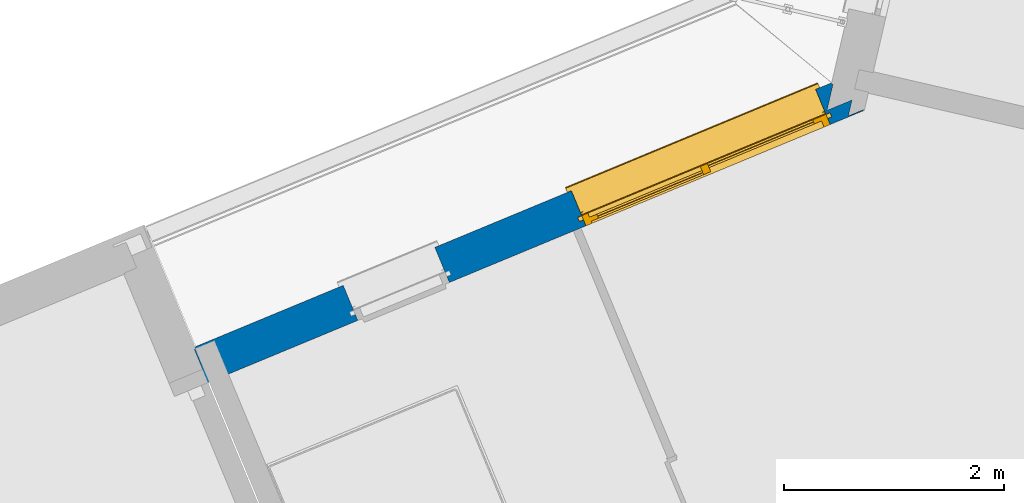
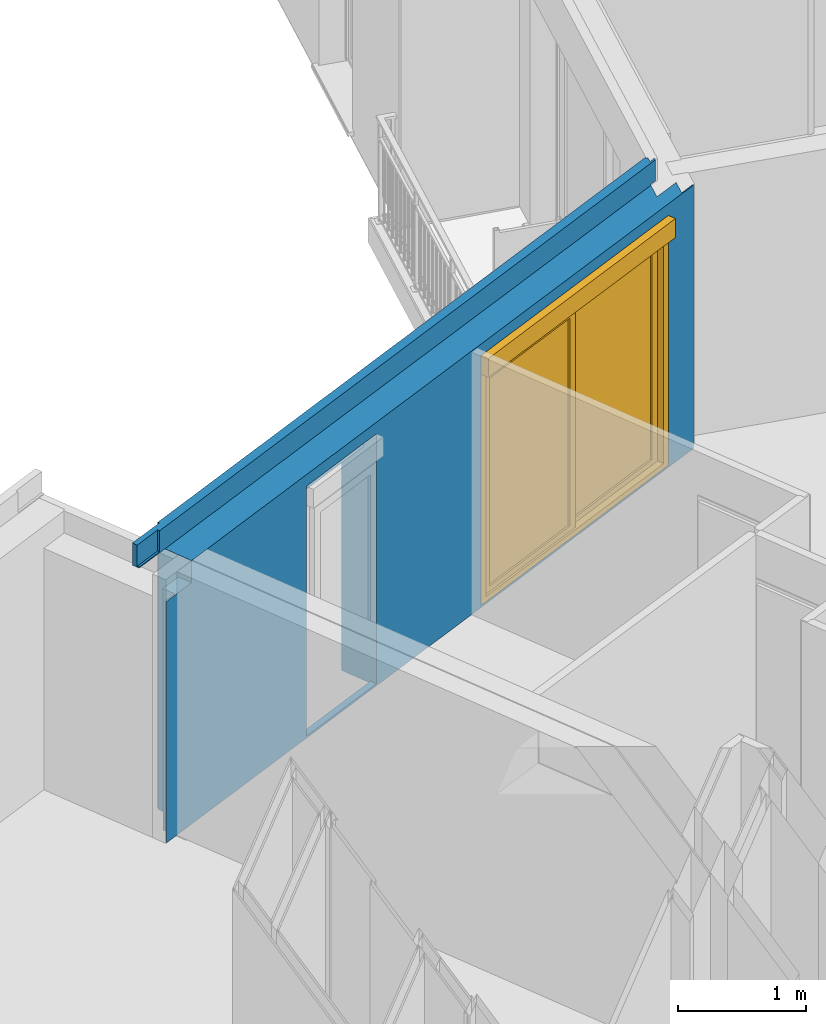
# One storey, part 13 of 90: 1 wall, 1 window, 2 openings.
"""IFC2X3 building model written with IfcOpenShell, lengths in metres."""

from ifc_helpers import new_model, entity, si_unit, converted_unit, derived_unit, money_unit, direction, frame, origin_with_axes, place, context, subcontext, project, spatial, open_shell, faceted_brep, surface_model, source, transform, mapped, material, material_list, type_object, element, fill, save


model = new_model("IFC2X3")

# Units and contexts
model_context = context("Model", 3, precision=1e-05, world=origin_with_axes(), true_north=direction((0.0, 1.0)))
body_context = subcontext(model_context, "Body", "Model", "MODEL_VIEW")
ifc_project = project(units=[si_unit("LENGTHUNIT", "METRE"), si_unit("AREAUNIT", "SQUARE_METRE"), si_unit("VOLUMEUNIT", "CUBIC_METRE"), converted_unit("PLANEANGLEUNIT", "DEGREE", entity("IfcPlaneAngleMeasure", 0.0174532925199), si_unit("PLANEANGLEUNIT", "RADIAN"), dimensions=[0, 0, 0, 0, 0, 0, 0]), si_unit("SOLIDANGLEUNIT", "STERADIAN"), money_unit("EUR"), converted_unit("TIMEUNIT", "Year", entity("IfcTimeMeasure", 31556926.0), si_unit("TIMEUNIT", "SECOND"), dimensions=[0, 0, 1, 0, 0, 0, 0]), si_unit("MASSUNIT", "GRAM", prefix="KILO"), si_unit("THERMODYNAMICTEMPERATUREUNIT", "DEGREE_CELSIUS"), si_unit("LUMINOUSINTENSITYUNIT", "LUMEN"), si_unit("ENERGYUNIT", "JOULE", prefix="MEGA"), derived_unit("THERMALCONDUCTANCEUNIT", [(si_unit("POWERUNIT", "WATT"), 1), (si_unit("LENGTHUNIT", "METRE"), -1), (si_unit("THERMODYNAMICTEMPERATUREUNIT", "KELVIN"), -1)]), derived_unit("SPECIFICHEATCAPACITYUNIT", [(si_unit("ENERGYUNIT", "JOULE"), 1), (si_unit("MASSUNIT", "GRAM", prefix="KILO"), -1), (si_unit("THERMODYNAMICTEMPERATUREUNIT", "KELVIN"), -1)]), derived_unit("MASSDENSITYUNIT", [(si_unit("MASSUNIT", "GRAM", prefix="KILO"), 1), (si_unit("VOLUMEUNIT", "CUBIC_METRE"), -1)])], contexts=[model_context])

# Site, building, storey
site_placement = place(None, origin_with_axes())
site = spatial("IfcSite", under=ifc_project, at=site_placement, Name="Site", CompositionType="ELEMENT")
building_placement = place(site_placement, origin_with_axes())
building = spatial("IfcBuilding", under=site, at=building_placement, Name="Bâtiment", CompositionType="ELEMENT")
storey_placement = place(building_placement, frame((0.0, 0.0, 2.72), z_axis=(0.0, 0.0, 1.0), x_axis=(1.0, 0.0, 0.0)))
storey = spatial("IfcBuildingStorey", under=building, at=storey_placement, Name="R+1", CompositionType="ELEMENT", Elevation=2.72)

# Wall, openings, window
ifc_material_1 = material(Name="Finition int - Plaque de plâtre")
ifc_material_2 = material(Name="Isolation - Polystyrène extrudé")
ifc_material_3 = material(Name="Bloc ELITHERM")
ifc_material_4 = material(Name="Isolation - Polystyrène expansé")
ifc_material_5 = material(Name="Mortier")
ifc_material_6 = material(Name="Béton cellulaire")
ifc_material_7 = material(Name="Finition ext - Crépis")
ifc_material_list = material_list([ifc_material_1, ifc_material_2, ifc_material_3, ifc_material_4, ifc_material_5, ifc_material_6, ifc_material_7])
wall_type = type_object("IfcWallType", Name="Mur ALKERN + planelle 21 345 x 2720", PredefinedType="USERDEFINED")
wall_placement = place(storey_placement, frame((-19.7780456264, -12.7581307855, 0.0), z_axis=(0.0, 0.0, 1.0), x_axis=(-0.923701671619, -0.383112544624, 0.0)))
wall = element("IfcWall", 1, at=wall_placement, inside=storey, type_object=wall_type, material=ifc_material_list, Name="Mue bloc ALKERN isolé", ObjectType="SOLIDWALL", context=body_context, shape_type="Brep", body=[
    faceted_brep([(-0.165315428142, 0.34499998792, 2.51), (6.27230078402, 0.344999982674, 2.51000000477), (6.27230078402, 0.344999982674, 2.3), (6.34030078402, 0.344999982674, 2.3), (6.59230079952, 0.344999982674, 2.3), (6.59230079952, 0.344999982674, 0.0), (-0.165315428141, 0.344999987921, 0.0), (2.55854389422, 0.344999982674, 2.22), (2.55854389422, 0.344999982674, 2.4), (0.158543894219, 0.344999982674, 2.4), (0.158543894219, 0.344999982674, 2.22), (0.158543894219, 0.344999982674, 0.02), (2.55854389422, 0.344999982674, 0.02), (4.80086941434, 0.344999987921, 2.22), (4.80086941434, 0.344999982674, 2.4), (3.90086941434, 0.344999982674, 2.4), (3.90086941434, 0.344999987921, 2.22), (3.90086941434, 0.344999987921, 0.02), (4.80086941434, 0.344999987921, 0.02), (-0.172454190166, 0.335000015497, 2.51), (6.27230078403, 0.335000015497, 2.51000000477), (6.27230078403, 0.335000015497, 2.3), (6.34030078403, 0.335000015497, 2.3), (6.59230079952, 0.335000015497, 2.3), (6.59230079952, 0.335000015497, 0.0), (-0.172454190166, 0.335000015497, 0.0), (2.55854389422, 0.335000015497, 2.22), (2.55854389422, 0.335000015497, 2.4), (0.158543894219, 0.335000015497, 2.4), (0.158543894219, 0.335000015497, 2.22), (0.158543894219, 0.335000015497, 0.02), (2.55854389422, 0.335000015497, 0.02), (4.80086941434, 0.335000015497, 2.22), (4.80086941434, 0.335000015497, 2.4), (3.90086941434, 0.335000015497, 2.4), (3.90086941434, 0.335000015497, 2.22), (3.90086941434, 0.335000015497, 0.02), (4.80086941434, 0.335000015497, 0.02)], [[[0, 1, 2, 3, 4, 5, 6], [7, 8, 9, 10, 11, 12], [13, 14, 15, 16, 17, 18]], [[1, 0, 19, 20]], [[2, 1, 20, 21]], [[22, 3, 2, 21]], [[4, 3, 22, 23]], [[24, 5, 4, 23]], [[24, 25, 6, 5]], [[6, 25, 19, 0]], [[26, 27, 8, 7]], [[27, 28, 9, 8]], [[28, 29, 10, 9]], [[30, 11, 10, 29]], [[31, 12, 11, 30]], [[12, 31, 26, 7]], [[14, 13, 32, 33]], [[15, 14, 33, 34]], [[16, 15, 34, 35]], [[16, 35, 36, 17]], [[17, 36, 37, 18]], [[32, 13, 18, 37]], [[25, 24, 23, 22, 21, 20, 19], [27, 26, 31, 30, 29, 28], [33, 32, 37, 36, 35, 34]]]),
    faceted_brep([(3.90086941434, 0.245, 0.02), (3.90086941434, 0.286, 0.02), (3.90086941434, 0.335000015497, 0.02), (3.90086941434, 0.335000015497, 2.22), (3.90086941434, 0.245, 2.22), (3.90086941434, 0.215000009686, 0.02), (3.90086941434, 0.215000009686, 0.0), (3.90086941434, 0.286, 0.0), (4.80086941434, 0.286, 0.02), (4.80086941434, 0.335000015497, 0.02), (6.27230078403, 0.335000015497, 2.3), (6.34030078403, 0.335000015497, 2.3), (6.47230079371, 0.335000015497, 2.3), (6.47230079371, 0.335000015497, 0.0), (-0.0250141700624, 0.335000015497, 0.0), (-0.0250141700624, 0.335000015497, 2.51), (6.27230078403, 0.335000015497, 2.51000000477), (0.158543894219, 0.335000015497, 2.22), (0.158543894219, 0.335000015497, 0.02), (2.55854389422, 0.335000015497, 0.02), (2.55854389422, 0.335000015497, 2.22), (2.55854389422, 0.335000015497, 2.4), (0.158543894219, 0.335000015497, 2.4), (4.80086941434, 0.335000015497, 2.22), (4.80086941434, 0.335000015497, 2.4), (3.90086941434, 0.335000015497, 2.4), (3.90086941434, 0.215, 2.4), (3.90086941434, 0.215, 2.22), (4.80086941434, 0.215, 2.4), (4.80086941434, 0.215, 2.22), (4.80086941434, 0.215000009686, 0.02), (4.80086941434, 0.215000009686, 0.0), (6.47230079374, 0.215000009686, 0.0), (6.47230079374, 0.215000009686, 2.3), (6.34030078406, 0.215000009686, 2.3), (6.27230078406, 0.215000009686, 2.3), (6.27230078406, 0.215000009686, 2.51000000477), (-0.110679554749, 0.215000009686, 2.51), (-0.110679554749, 0.215000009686, 0.0), (0.158543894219, 0.215000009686, 0.0), (0.158543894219, 0.215000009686, 0.02), (0.158543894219, 0.215, 2.22), (0.158543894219, 0.215, 2.4), (2.55854389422, 0.215, 2.4), (2.55854389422, 0.215, 2.22), (2.55854389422, 0.215000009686, 0.02), (2.55854389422, 0.215000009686, 0.0), (2.55854389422, 0.286, 0.0), (0.158543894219, 0.286, 0.0), (4.80086941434, 0.286, 0.0), (4.80086941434, 0.245, 0.02), (4.80086941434, 0.245, 2.22), (0.158543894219, 0.245, 2.22), (0.158543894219, 0.245, 0.02), (0.158543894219, 0.286, 0.02), (2.55854389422, 0.286, 0.02), (2.55854389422, 0.245, 0.02), (2.55854389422, 0.245, 2.22)], [[[0, 1, 2, 3, 4]], [[1, 0, 5, 6, 7]], [[1, 8, 9, 2]], [[10, 11, 12, 13, 14, 15, 16], [17, 18, 19, 20, 21, 22], [3, 2, 9, 23, 24, 25]], [[26, 27, 4, 3, 25]], [[5, 0, 4, 27]], [[6, 5, 27, 26, 28, 29, 30, 31, 32, 33, 34, 35, 36, 37, 38, 39, 40, 41, 42, 43, 44, 45, 46]], [[7, 6, 46, 47, 48, 39, 38, 14, 13, 32, 31, 49]], [[8, 1, 7, 49]], [[8, 50, 51, 23, 9]], [[34, 11, 10, 35]], [[12, 11, 34, 33]], [[32, 13, 12, 33]], [[14, 38, 37, 15]], [[16, 15, 37, 36]], [[10, 16, 36, 35]], [[17, 52, 53, 54, 18]], [[54, 55, 19, 18]], [[20, 19, 55, 56, 57]], [[21, 20, 57, 44, 43]], [[21, 43, 42, 22]], [[17, 22, 42, 41, 52]], [[51, 29, 28, 24, 23]], [[24, 28, 26, 25]], [[50, 30, 29, 51]], [[50, 8, 49, 31, 30]], [[39, 48, 54, 53, 40]], [[40, 53, 52, 41]], [[56, 45, 44, 57]], [[46, 45, 56, 55, 47]], [[55, 54, 48, 47]]]),
    faceted_brep([(3.90086941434, 0.214999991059, 0.02), (3.90086941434, 0.214999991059, 0.0), (2.55854389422, 0.214999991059, 0.0), (2.55854389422, 0.214999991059, 0.02), (2.55854389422, 0.214999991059, 2.22), (0.158543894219, 0.214999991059, 2.22), (0.158543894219, 0.214999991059, 0.02), (0.158543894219, 0.214999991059, 0.0), (0.135053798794, 0.214999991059, 0.0), (0.135053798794, 0.214999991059, 2.50999999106), (6.27230078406, 0.214999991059, 2.51000000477), (6.27230078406, 0.214999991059, 0.0), (4.80086941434, 0.214999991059, 0.0), (4.80086941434, 0.214999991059, 0.02), (4.80086941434, 0.214999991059, 2.22), (3.90086941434, 0.214999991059, 2.22), (3.90086941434, 0.015, 0.02), (3.90086941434, 0.015, 0.0), (3.90086941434, 0.015, 2.22), (2.55854389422, 0.015, 0.0), (2.55854389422, 0.015, 0.02), (2.55854389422, 0.015, 2.22), (0.158543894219, 0.015, 2.22), (0.158543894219, 0.015, 0.02), (0.158543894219, 0.015, 0.0), (-0.00772182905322, 0.015, 0.0), (-0.00772182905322, 0.015, 2.50999999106), (0.0408218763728, 0.0829999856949, 2.50999999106), (6.27230078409, 0.0829999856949, 2.51000000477), (6.27230078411, 0.015, 0.0), (6.27230078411, 0.015, 2.51000000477), (4.80086941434, 0.015, 0.0), (4.80086941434, 0.015, 0.02), (4.80086941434, 0.015, 2.22)], [[[0, 1, 2, 3, 4, 5, 6, 7, 8, 9, 10, 11, 12, 13, 14, 15]], [[16, 17, 1, 0, 15, 18]], [[1, 17, 19, 2]], [[3, 2, 19, 20, 21, 4]], [[22, 5, 4, 21]], [[23, 24, 7, 6, 5, 22]], [[25, 8, 7, 24]], [[9, 8, 25, 26, 27]], [[9, 27, 28, 10]], [[29, 11, 10, 28, 30]], [[31, 12, 11, 29]], [[13, 12, 31, 32, 33, 14]], [[14, 33, 18, 15]], [[17, 16, 18, 33, 32, 31, 29, 30, 26, 25, 24, 23, 22, 21, 20, 19]], [[27, 26, 30, 28]]]),
    faceted_brep([(6.34029502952, 0.0630000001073, 2.72), (6.34029493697, 0.083000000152, 2.72), (-0.0181541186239, 0.083000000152, 2.72), (-0.0324316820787, 0.0630000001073, 2.72), (6.34029493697, 0.083000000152, 2.51999999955), (6.34029502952, 0.0630000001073, 2.51999999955), (-0.0181541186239, 0.083000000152, 2.51999999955), (-0.0324316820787, 0.0630000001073, 2.51999999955)], [[[0, 1, 2, 3]], [[4, 1, 0, 5]], [[1, 4, 6, 2]], [[3, 2, 6, 7]], [[5, 0, 3, 7]], [[4, 5, 7, 6]]]),
    faceted_brep([(0.0408218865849, 0.083, 2.52), (-0.00772182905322, 0.015, 2.52), (6.60230075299, 0.015, 2.52), (6.60230075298, 0.083, 2.52), (-0.00772182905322, 0.015, 2.51), (0.0408218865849, 0.083, 2.51), (6.60230075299, 0.015, 2.51), (6.60230075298, 0.083, 2.51)], [[[0, 1, 2, 3]], [[4, 1, 0, 5]], [[1, 4, 6, 2]], [[6, 7, 3, 2]], [[5, 0, 3, 7]], [[4, 5, 7, 6]]]),
    faceted_brep([(0.0265443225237, 0.0629999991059, 2.72), (-0.00772182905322, 0.015, 2.72), (6.60230075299, 0.015, 2.71999999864), (6.60230075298, 0.0629999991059, 2.71999999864), (-0.00772182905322, 0.015, 2.51999999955), (0.0265443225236, 0.0629999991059, 2.51999999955), (6.60230075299, 0.015, 2.51999999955), (6.60230075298, 0.0629999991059, 2.51999999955)], [[[0, 1, 2, 3]], [[4, 1, 0, 5]], [[1, 4, 6, 2]], [[6, 7, 3, 2]], [[5, 0, 3, 7]], [[4, 5, 7, 6]]]),
    faceted_brep([(3.90086941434, 0.0149999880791, 0.02), (3.90086941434, 0.0149999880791, 0.0), (2.55854389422, 0.0149999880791, 0.0), (2.55854389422, 0.0149999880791, 0.02), (2.55854389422, 0.0149999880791, 2.22), (0.158543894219, 0.0149999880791, 2.22), (0.158543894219, 0.0149999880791, 0.02), (0.158543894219, 0.0149999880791, 0.0), (0.0107081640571, 0.0149999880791, 0.0), (0.0107081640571, 0.0149999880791, 2.72), (6.25730078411, 0.0149999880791, 2.72), (6.25730078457, 0.0149999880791, 0.0), (4.80086941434, 0.0149999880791, 0.0), (4.80086941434, 0.0149999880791, 0.02), (4.80086941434, 0.0149999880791, 2.22), (3.90086941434, 0.0149999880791, 2.22), (3.90086941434, 0.0, 0.02), (3.90086941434, 0.0, 0.0), (3.90086941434, 0.0, 2.22), (2.55854389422, 0.0, 0.0), (2.55854389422, 0.0, 0.02), (2.55854389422, 0.0, 2.22), (0.158543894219, 0.0, 2.22), (0.158543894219, 0.0, 0.02), (0.158543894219, 0.0, 0.0), (0.0, 0.0, 0.0), (0.0, 0.0, 2.72), (6.25730078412, 0.0, 2.72), (6.25730078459, 0.0, 0.0), (4.80086941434, 0.0, 0.0), (4.80086941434, 0.0, 0.02), (4.80086941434, 0.0, 2.22)], [[[0, 1, 2, 3, 4, 5, 6, 7, 8, 9, 10, 11, 12, 13, 14, 15]], [[16, 17, 1, 0, 15, 18]], [[1, 17, 19, 2]], [[3, 2, 19, 20, 21, 4]], [[22, 5, 4, 21]], [[23, 24, 7, 6, 5, 22]], [[25, 8, 7, 24]], [[25, 26, 9, 8]], [[10, 9, 26, 27]], [[11, 10, 27, 28]], [[29, 12, 11, 28]], [[13, 12, 29, 30, 31, 14]], [[14, 31, 18, 15]], [[17, 16, 18, 31, 30, 29, 28, 27, 26, 25, 24, 23, 22, 21, 20, 19]]]),
])
opening_1_placement = place(wall_placement, frame((1.35854389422, 0.0, 0.02), z_axis=(0.0, 0.0, 1.0), x_axis=(1.0, 0.0, 0.0)))
opening_1 = element("IfcOpeningElement", 2, at=opening_1_placement, cuts=wall, Name="MEN 50", context=body_context, shape_type="Brep", body=[
    faceted_brep([(-1.2, 0.83499998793, 0.0), (1.2, 0.83499998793, 0.0), (1.2, 0.245, 0.0), (-1.2, 0.245, 0.0), (-1.2, 0.83499998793, 2.2), (1.2, 0.83499998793, 2.2), (1.2, 0.245, 2.2), (-1.2, 0.245, 2.2)], [[[0, 1, 2, 3]], [[0, 4, 5, 1]], [[1, 5, 6, 2]], [[3, 2, 6, 7]], [[4, 0, 3, 7]], [[5, 4, 7, 6]]]),
    faceted_brep([(-1.2, -0.34499998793, 0.0), (-1.2, -0.34499998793, 2.2), (-1.2, 0.245, 2.2), (-1.2, 0.245, 0.0), (1.2, -0.34499998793, 0.0), (1.2, -0.34499998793, 2.2), (1.2, 0.245, 2.2), (1.2, 0.245, 0.0)], [[[0, 1, 2, 3]], [[0, 4, 5, 1]], [[1, 5, 6, 2]], [[3, 2, 6, 7]], [[4, 0, 3, 7]], [[5, 4, 7, 6]]]),
    faceted_brep([(-1.2, -0.34499998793, 0.0), (-1.2, -0.34499998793, 2.2), (-1.2, 0.245, 2.2), (-1.2, 0.245, 0.0), (1.2, -0.34499998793, 0.0), (1.2, -0.34499998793, 2.2), (1.2, 0.245, 2.2), (1.2, 0.245, 0.0)], [[[0, 1, 2, 3]], [[0, 4, 5, 1]], [[1, 5, 6, 2]], [[3, 2, 6, 7]], [[4, 0, 3, 7]], [[5, 4, 7, 6]]]),
    faceted_brep([(-1.2, 0.80499998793, 2.2), (1.2, 0.80499998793, 2.2), (1.2, 0.215, 2.2), (-1.2, 0.215, 2.2), (-1.2, 0.80499998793, 2.38), (1.2, 0.80499998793, 2.38), (1.2, 0.215, 2.38), (-1.2, 0.215, 2.38)], [[[0, 1, 2, 3]], [[0, 4, 5, 1]], [[1, 5, 6, 2]], [[3, 2, 6, 7]], [[4, 0, 3, 7]], [[5, 4, 7, 6]]]),
    faceted_brep([(-1.2, -0.30399998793, 0.0), (1.2, -0.30399998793, 0.0), (1.2, 0.286, 0.0), (-1.2, 0.286, 0.0), (-1.2, -0.30399998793, -0.06), (1.2, -0.30399998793, -0.06), (1.2, 0.286, -0.06), (-1.2, 0.286, -0.06)], [[[0, 1, 2, 3]], [[0, 4, 5, 1]], [[1, 5, 6, 2]], [[3, 2, 6, 7]], [[4, 0, 3, 7]], [[5, 4, 7, 6]]]),
])
opening_2_placement = place(wall_placement, frame((4.35086941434, 0.0, 0.02), z_axis=(0.0, 0.0, 1.0), x_axis=(1.0, 0.0, 0.0)))
element("IfcOpeningElement", 3, at=opening_2_placement, cuts=wall, Name="MEN 51", context=body_context, shape_type="Brep", body=[
    faceted_brep([(0.45, 0.245, 0.0), (-0.45, 0.245, 0.0), (-0.45, 0.83499998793, 0.0), (0.45, 0.83499998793, 0.0), (0.45, 0.245, 2.2), (-0.45, 0.245, 2.2), (-0.45, 0.83499998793, 2.2), (0.45, 0.83499998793, 2.2)], [[[0, 1, 2, 3]], [[0, 4, 5, 1]], [[1, 5, 6, 2]], [[3, 2, 6, 7]], [[4, 0, 3, 7]], [[5, 4, 7, 6]]]),
    faceted_brep([(0.45, 0.245, 0.0), (0.45, 0.245, 2.2), (0.45, -0.34499998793, 2.2), (0.45, -0.34499998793, 0.0), (-0.45, 0.245, 0.0), (-0.45, 0.245, 2.2), (-0.45, -0.34499998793, 2.2), (-0.45, -0.34499998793, 0.0)], [[[0, 1, 2, 3]], [[0, 4, 5, 1]], [[1, 5, 6, 2]], [[3, 2, 6, 7]], [[4, 0, 3, 7]], [[5, 4, 7, 6]]]),
    faceted_brep([(0.45, 0.245, 0.0), (0.45, 0.245, 2.2), (0.45, -0.34499998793, 2.2), (0.45, -0.34499998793, 0.0), (-0.45, 0.245, 0.0), (-0.45, 0.245, 2.2), (-0.45, -0.34499998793, 2.2), (-0.45, -0.34499998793, 0.0)], [[[0, 1, 2, 3]], [[0, 4, 5, 1]], [[1, 5, 6, 2]], [[3, 2, 6, 7]], [[4, 0, 3, 7]], [[5, 4, 7, 6]]]),
    faceted_brep([(0.45, 0.215, 2.2), (-0.45, 0.215, 2.2), (-0.45, 0.80499998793, 2.2), (0.45, 0.80499998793, 2.2), (0.45, 0.215, 2.38), (-0.45, 0.215, 2.38), (-0.45, 0.80499998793, 2.38), (0.45, 0.80499998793, 2.38)], [[[0, 1, 2, 3]], [[0, 4, 5, 1]], [[1, 5, 6, 2]], [[3, 2, 6, 7]], [[4, 0, 3, 7]], [[5, 4, 7, 6]]]),
    faceted_brep([(0.45, 0.286, 0.0), (-0.45, 0.286, 0.0), (-0.45, -0.30399998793, 0.0), (0.45, -0.30399998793, 0.0), (0.45, 0.286, -0.06), (-0.45, 0.286, -0.06), (-0.45, -0.30399998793, -0.06), (0.45, -0.30399998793, -0.06)], [[[0, 1, 2, 3]], [[0, 4, 5, 1]], [[1, 5, 6, 2]], [[3, 2, 6, 7]], [[4, 0, 3, 7]], [[5, 4, 7, 6]]]),
])
window_style = type_object("IfcWindowStyle", Name="Baie générique 2017 v2", ConstructionType="NOTDEFINED", OperationType="NOTDEFINED", ParameterTakesPrecedence=False, Sizeable=False)
shared_shape = source(origin_with_axes(), body_context, "Body", "SurfaceModel", [
    faceted_brep([(-1.2, 0.1, 0.0), (1.2, 0.1, 0.0), (1.2, 0.0, 0.0), (-1.2, 0.0, 0.0), (-1.2, 0.1, 2.2), (1.2, 0.1, 2.2), (-1.14, 0.1, 0.05), (1.14, 0.1, 0.05), (1.14, 0.1, 2.15), (-1.14, 0.1, 2.15), (1.2, 0.0, 2.2), (-1.2, 0.0, 2.2), (-1.14, 0.0, 0.05), (-1.14, 0.0, 2.15), (1.14, 0.0, 2.15), (1.14, 0.0, 0.05)], [[[0, 1, 2, 3]], [[0, 4, 5, 1], [6, 7, 8, 9]], [[1, 5, 10, 2]], [[3, 2, 10, 11], [12, 13, 14, 15]], [[4, 0, 3, 11]], [[5, 4, 11, 10]], [[7, 6, 12, 15]], [[8, 7, 15, 14]], [[9, 8, 14, 13]], [[6, 9, 13, 12]]]),
    faceted_brep([(-1.14, 0.04, 0.05), (-1.14, 0.04, 2.15), (0.035, 0.04, 2.15), (0.035, 0.04, 0.05), (-0.035, 0.04, 2.08), (-1.07, 0.04, 2.08), (-1.07, 0.04, 0.1), (-0.035, 0.04, 0.1), (-1.14, 0.0, 2.15), (-1.14, 0.02, 2.15), (-1.14, 0.02, 0.05), (-1.14, 0.0, 0.05), (0.035, 0.0, 2.15), (0.035, 0.02, 2.15), (0.035, 0.0, 0.05), (0.035, 0.02, 0.05), (-0.035, 0.0, 2.08), (-1.07, 0.0, 2.08), (-1.07, 0.0, 0.1), (-0.035, 0.0, 0.1)], [[[0, 1, 2, 3], [4, 5, 6, 7]], [[8, 9, 1, 0, 10, 11]], [[12, 13, 2, 1, 9, 8]], [[13, 12, 14, 15, 3, 2]], [[15, 14, 11, 10, 0, 3]], [[5, 4, 16, 17]], [[18, 6, 5, 17]], [[19, 7, 6, 18]], [[4, 7, 19, 16]], [[12, 8, 11, 14], [19, 18, 17, 16]]]),
    surface_model("IfcShellBasedSurfaceModel", [(-1.14, 0.04, 0.05), (-1.14, 0.04, 2.15), (0.035, 0.04, 2.15), (0.035, 0.04, 0.05), (-1.07, 0.04, 0.1), (-0.035, 0.04, 0.1), (-0.035, 0.04, 2.08), (-1.07, 0.04, 2.08)], [open_shell([[[0, 1, 2, 3], [4, 5, 6, 7]]])]),
    surface_model("IfcShellBasedSurfaceModel", [(-1.14, 0.0, 0.05), (-1.14, 0.0, 2.15), (0.035, 0.0, 2.15), (0.035, 0.0, 0.05), (-1.07, 0.0, 0.1), (-0.035, 0.0, 0.1), (-0.035, 0.0, 2.08), (-1.07, 0.0, 2.08)], [open_shell([[[0, 1, 2, 3], [4, 5, 6, 7]]])]),
    faceted_brep([(-1.07, 0.0225, 0.1), (-0.035, 0.0225, 0.1), (-0.035, 0.0175, 0.1), (-1.07, 0.0175, 0.1), (-1.07, 0.0225, 2.08), (-0.035, 0.0225, 2.08), (-0.035, 0.0175, 2.08), (-1.07, 0.0175, 2.08)], [[[0, 1, 2, 3]], [[0, 4, 5, 1]], [[1, 5, 6, 2]], [[3, 2, 6, 7]], [[4, 0, 3, 7]], [[5, 4, 7, 6]]]),
    faceted_brep([(-0.035, 0.08, 0.05), (-0.035, 0.08, 2.15), (1.14, 0.08, 2.15), (1.14, 0.08, 0.05), (1.07, 0.08, 2.08), (0.035, 0.08, 2.08), (0.035, 0.08, 0.1), (1.07, 0.08, 0.1), (-0.035, 0.04, 2.15), (-0.035, 0.06, 2.15), (-0.035, 0.06, 0.05), (-0.035, 0.04, 0.05), (1.14, 0.04, 2.15), (1.14, 0.06, 2.15), (1.14, 0.04, 0.05), (1.14, 0.06, 0.05), (1.07, 0.04, 2.08), (0.035, 0.04, 2.08), (0.035, 0.04, 0.1), (1.07, 0.04, 0.1)], [[[0, 1, 2, 3], [4, 5, 6, 7]], [[8, 9, 1, 0, 10, 11]], [[12, 13, 2, 1, 9, 8]], [[13, 12, 14, 15, 3, 2]], [[15, 14, 11, 10, 0, 3]], [[5, 4, 16, 17]], [[18, 6, 5, 17]], [[19, 7, 6, 18]], [[4, 7, 19, 16]], [[12, 8, 11, 14], [19, 18, 17, 16]]]),
    surface_model("IfcShellBasedSurfaceModel", [(-0.035, 0.08, 0.05), (-0.035, 0.08, 2.15), (1.14, 0.08, 2.15), (1.14, 0.08, 0.05), (0.035, 0.08, 0.1), (1.07, 0.08, 0.1), (1.07, 0.08, 2.08), (0.035, 0.08, 2.08)], [open_shell([[[0, 1, 2, 3], [4, 5, 6, 7]]])]),
    surface_model("IfcShellBasedSurfaceModel", [(-0.035, 0.04, 0.05), (-0.035, 0.04, 2.15), (1.14, 0.04, 2.15), (1.14, 0.04, 0.05), (0.035, 0.04, 0.1), (1.07, 0.04, 0.1), (1.07, 0.04, 2.08), (0.035, 0.04, 2.08)], [open_shell([[[0, 1, 2, 3], [4, 5, 6, 7]]])]),
    faceted_brep([(0.035, 0.0625, 0.1), (1.07, 0.0625, 0.1), (1.07, 0.0575, 0.1), (0.035, 0.0575, 0.1), (0.035, 0.0625, 2.08), (1.07, 0.0625, 2.08), (1.07, 0.0575, 2.08), (0.035, 0.0575, 2.08)], [[[0, 1, 2, 3]], [[0, 4, 5, 1]], [[1, 5, 6, 2]], [[3, 2, 6, 7]], [[4, 0, 3, 7]], [[5, 4, 7, 6]]]),
    faceted_brep([(-1.2, -0.03, 0.0), (-1.175, -0.03, 0.0), (-1.175, -0.03, 2.2), (-1.2, -0.03, 2.2), (-1.2, -0.002, 0.0), (-1.175, -0.002, 0.0), (-1.175, -0.004, 0.0), (-1.198, -0.004, 0.0), (-1.198, -0.028, 0.0), (-1.175, -0.028, 0.0), (-1.175, -0.028, 2.2), (-1.198, -0.028, 2.2), (-1.198, -0.004, 2.2), (-1.175, -0.004, 2.2), (-1.175, -0.002, 2.2), (-1.2, -0.002, 2.2)], [[[0, 1, 2, 3]], [[0, 4, 5, 6, 7, 8, 9, 1]], [[1, 9, 10, 2]], [[3, 2, 10, 11, 12, 13, 14, 15]], [[4, 0, 3, 15]], [[5, 4, 15, 14]], [[6, 5, 14, 13]], [[7, 6, 13, 12]], [[8, 7, 12, 11]], [[9, 8, 11, 10]]]),
    faceted_brep([(1.2, -0.03, 0.0), (1.2, -0.03, 2.2), (1.175, -0.03, 2.2), (1.175, -0.03, 0.0), (1.2, -0.002, 0.0), (1.2, -0.002, 2.2), (1.175, -0.002, 2.2), (1.175, -0.004, 2.2), (1.198, -0.004, 2.2), (1.198, -0.028, 2.2), (1.175, -0.028, 2.2), (1.175, -0.028, 0.0), (1.198, -0.028, 0.0), (1.198, -0.004, 0.0), (1.175, -0.004, 0.0), (1.175, -0.002, 0.0)], [[[0, 1, 2, 3]], [[4, 5, 1, 0]], [[1, 5, 6, 7, 8, 9, 10, 2]], [[3, 2, 10, 11]], [[0, 3, 11, 12, 13, 14, 15, 4]], [[15, 6, 5, 4]], [[14, 7, 6, 15]], [[13, 8, 7, 14]], [[12, 9, 8, 13]], [[11, 10, 9, 12]]]),
    faceted_brep([(1.198, -0.028, 2.2), (-1.198, -0.028, 2.2), (-1.198, -0.028, 2.378), (1.198, -0.028, 2.378), (1.198, -0.03, 2.2), (-1.198, -0.03, 2.2), (-1.198, -0.03, 2.38), (-1.198, 0.17, 2.38), (-1.198, 0.17, 2.2), (-1.198, 0.168, 2.2), (-1.198, 0.168, 2.378), (1.198, 0.168, 2.378), (1.198, 0.168, 2.2), (1.198, 0.17, 2.2), (1.198, 0.17, 2.38), (1.198, -0.03, 2.38)], [[[0, 1, 2, 3]], [[4, 5, 1, 0]], [[1, 5, 6, 7, 8, 9, 10, 2]], [[3, 2, 10, 11]], [[0, 3, 11, 12, 13, 14, 15, 4]], [[15, 6, 5, 4]], [[14, 7, 6, 15]], [[13, 8, 7, 14]], [[12, 9, 8, 13]], [[11, 10, 9, 12]]]),
    faceted_brep([(1.198, 0.0724697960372, 2.27436337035), (1.198, 0.08, 2.29), (1.198, 0.0724697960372, 2.30563662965), (1.198, 0.0555495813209, 2.30949855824), (1.198, 0.041980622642, 2.29867767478), (1.198, 0.041980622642, 2.28132232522), (1.198, 0.0555495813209, 2.27050144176), (-1.198, 0.0724697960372, 2.27436337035), (-1.198, 0.08, 2.29), (-1.198, 0.0724697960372, 2.30563662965), (-1.198, 0.0555495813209, 2.30949855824), (-1.198, 0.041980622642, 2.29867767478), (-1.198, 0.041980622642, 2.28132232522), (-1.198, 0.0555495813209, 2.27050144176)], [[[0, 1, 2, 3, 4, 5, 6]], [[0, 7, 8, 1]], [[1, 8, 9, 2]], [[2, 9, 10, 3]], [[3, 10, 11, 4]], [[4, 11, 12, 5]], [[5, 12, 13, 6]], [[6, 13, 7, 0]], [[7, 13, 12, 11, 10, 9, 8]]]),
    faceted_brep([(1.188, 0.130275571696, 2.25615706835), (1.188, 0.138, 2.29), (1.188, 0.130275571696, 2.32384293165), (1.188, 0.108632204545, 2.35098285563), (1.188, 0.0773566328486, 2.36604437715), (1.188, 0.0426433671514, 2.36604437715), (1.188, 0.011367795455, 2.35098285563), (1.188, -0.0102755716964, 2.32384293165), (1.188, -0.018, 2.29), (1.188, -0.0102755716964, 2.25615706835), (1.188, 0.011367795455, 2.22901714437), (1.188, 0.0426433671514, 2.21395562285), (1.188, 0.0773566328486, 2.21395562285), (1.188, 0.108632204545, 2.22901714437), (-1.188, 0.130275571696, 2.25615706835), (-1.188, 0.138, 2.29), (-1.188, 0.130275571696, 2.32384293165), (-1.188, 0.108632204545, 2.35098285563), (-1.188, 0.0773566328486, 2.36604437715), (-1.188, 0.0426433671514, 2.36604437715), (-1.188, 0.011367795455, 2.35098285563), (-1.188, -0.0102755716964, 2.32384293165), (-1.188, -0.018, 2.29), (-1.188, -0.0102755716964, 2.25615706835), (-1.188, 0.011367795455, 2.22901714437), (-1.188, 0.0426433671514, 2.21395562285), (-1.188, 0.0773566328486, 2.21395562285), (-1.188, 0.108632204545, 2.22901714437)], [[[0, 1, 2, 3, 4, 5, 6, 7, 8, 9, 10, 11, 12, 13]], [[0, 14, 15, 1]], [[1, 15, 16, 2]], [[2, 16, 17, 3]], [[3, 17, 18, 4]], [[4, 18, 19, 5]], [[5, 19, 20, 6]], [[6, 20, 21, 7]], [[7, 21, 22, 8]], [[8, 22, 23, 9]], [[9, 23, 24, 10]], [[10, 24, 25, 11]], [[11, 25, 26, 12]], [[12, 26, 27, 13]], [[13, 27, 14, 0]], [[14, 27, 26, 25, 24, 23, 22, 21, 20, 19, 18, 17, 16, 15]]]),
    faceted_brep([(1.2, 0.17, 2.2), (1.198, 0.17, 2.2), (1.198, 0.17, 2.38), (1.2, 0.17, 2.38), (1.2, -0.03, 2.2), (1.198, -0.03, 2.2), (1.198, -0.03, 2.38), (1.2, -0.03, 2.38)], [[[0, 1, 2, 3]], [[4, 5, 1, 0]], [[1, 5, 6, 2]], [[3, 2, 6, 7]], [[0, 3, 7, 4]], [[7, 6, 5, 4]]]),
    faceted_brep([(-1.198, 0.17, 2.2), (-1.2, 0.17, 2.2), (-1.2, 0.17, 2.38), (-1.198, 0.17, 2.38), (-1.198, -0.03, 2.2), (-1.2, -0.03, 2.2), (-1.2, -0.03, 2.38), (-1.198, -0.03, 2.38)], [[[0, 1, 2, 3]], [[4, 5, 1, 0]], [[1, 5, 6, 2]], [[3, 2, 6, 7]], [[0, 3, 7, 4]], [[7, 6, 5, 4]]]),
    faceted_brep([(1.198, -0.004, 2.2), (-1.198, -0.004, 2.2), (-1.198, 0.168, 2.2), (1.198, 0.168, 2.2), (1.198, -0.004, 2.202), (-1.198, -0.004, 2.202), (-1.198, 0.168, 2.202), (1.198, 0.168, 2.202)], [[[0, 1, 2, 3]], [[4, 5, 1, 0]], [[1, 5, 6, 2]], [[3, 2, 6, 7]], [[0, 3, 7, 4]], [[7, 6, 5, 4]]]),
    faceted_brep([(-1.188, -0.006, 2.2), (-1.188, -0.006, 2.29), (1.188, -0.006, 2.29), (1.188, -0.006, 2.2), (-1.188, -0.026, 2.2), (-1.188, -0.026, 2.29), (1.188, -0.026, 2.29), (1.188, -0.026, 2.2)], [[[0, 1, 2, 3]], [[1, 0, 4, 5]], [[2, 1, 5, 6]], [[3, 2, 6, 7]], [[4, 0, 3, 7]], [[5, 4, 7, 6]]]),
    faceted_brep([(1.2, -0.00167949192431, -0.01), (1.2, 0.0, -0.00373205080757), (1.24, 0.0, -0.00373205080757), (1.24, 0.001, 0.0), (-1.24, 0.001, 0.0), (-1.24, 0.0, -0.00373205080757), (-1.2, 0.0, -0.00373205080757), (-1.2, -0.00167949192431, -0.01), (1.2, -0.009, -0.0173205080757), (1.2, -0.019, -0.02), (1.2, -0.245, -0.02), (1.2, -0.245, -0.06), (1.2, 0.0, -0.06), (1.24, 0.0, -0.06), (1.24, 0.041, -0.06), (1.24, 0.041, 0.0), (-1.24, 0.041, 0.0), (-1.24, 0.041, -0.06), (-1.24, 0.0, -0.06), (-1.2, 0.0, -0.06), (-1.2, -0.245, -0.02), (-1.2, -0.019, -0.02), (-1.2, -0.009, -0.0173205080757), (-1.2, -0.245, -0.06), (-1.24, -0.245, -0.02), (-1.24, -0.285, -0.02), (1.24, -0.285, -0.02), (1.24, -0.245, -0.02), (1.24, -0.245, -0.06), (1.24, -0.275, -0.06), (-1.24, -0.275, -0.06), (-1.24, -0.245, -0.06), (-1.24, -0.295, -0.03), (-1.24, -0.292071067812, -0.0229289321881), (-1.24, -0.275, -0.05), (-1.24, -0.285, -0.05), (-1.24, -0.285, -0.06), (-1.24, -0.295, -0.06), (1.24, -0.292071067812, -0.0229289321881), (1.24, -0.295, -0.03), (1.24, -0.295, -0.06), (1.24, -0.285, -0.06), (1.24, -0.285, -0.05), (1.24, -0.275, -0.05)], [[[0, 1, 2, 3, 4, 5, 6, 7]], [[1, 0, 8, 9, 10, 11, 12]], [[13, 2, 1, 12]], [[2, 13, 14, 15, 3]], [[16, 4, 3, 15]], [[4, 16, 17, 18, 5]], [[5, 18, 19, 6]], [[20, 21, 22, 7, 6, 19, 23]], [[8, 0, 7, 22]], [[9, 8, 22, 21]], [[10, 9, 21, 20, 24, 25, 26, 27]], [[10, 27, 28, 11]], [[11, 28, 29, 30, 31, 23, 19, 18, 17, 14, 13, 12]], [[17, 16, 15, 14]], [[20, 23, 31, 24]], [[32, 33, 25, 24, 31, 30, 34, 35, 36, 37]], [[25, 33, 38, 26]], [[28, 27, 26, 38, 39, 40, 41, 42, 43, 29]], [[34, 30, 29, 43]], [[33, 32, 39, 38]], [[35, 34, 43, 42]], [[36, 35, 42, 41]], [[37, 36, 41, 40]], [[32, 37, 40, 39]]]),
])
window_placement = place(opening_1_placement, frame((-1.2, 0.0, 0.0), z_axis=(0.0, 0.0, 1.0), x_axis=(1.0, 0.0, 0.0)))
window = element("IfcWindow", 4, at=window_placement, inside=storey, type_object=window_style, Name="MEN 50", ObjectType="WINDOW", OverallHeight=2.2, OverallWidth=2.4, context=body_context, shape_type="MappedRepresentation", body=[
    mapped(shared_shape, transform((1.2, 0.245, 0.0))),
])
fill(opening_1, window)

save(model, "model.ifc")
